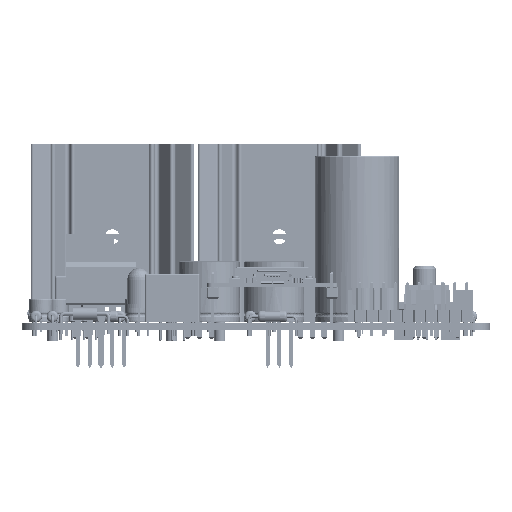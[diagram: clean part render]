
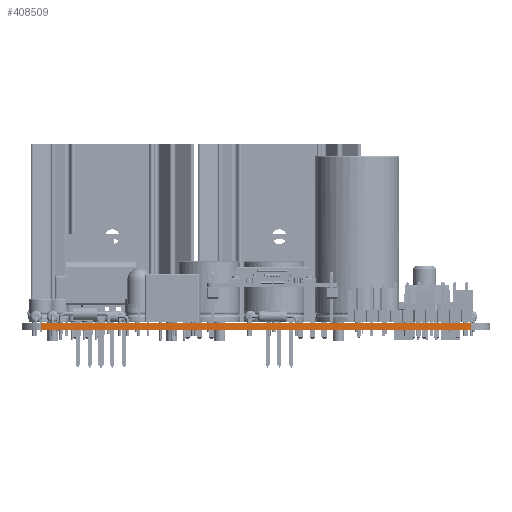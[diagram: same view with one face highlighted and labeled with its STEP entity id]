
A CAD part, left-side view. The second image highlights one B-rep face of the part: STEP entity #408509.
In plain terms, the highlighted planar face has unit normal (-1, 0, 0).
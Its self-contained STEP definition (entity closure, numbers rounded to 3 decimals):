
#381215 = PLANE('',#381216);
#381216 = AXIS2_PLACEMENT_3D('',#381217,#381218,#381219);
#381217 = CARTESIAN_POINT('',(75.,-70.,1.58));
#381218 = DIRECTION('',(-0.,-0.,-1.));
#381219 = DIRECTION('',(-1.,0.,0.));
#381269 = PLANE('',#381270);
#381270 = AXIS2_PLACEMENT_3D('',#381271,#381272,#381273);
#381271 = CARTESIAN_POINT('',(75.,-70.,0.));
#381272 = DIRECTION('',(-0.,-0.,-1.));
#381273 = DIRECTION('',(-1.,0.,0.));
#382722 = VERTEX_POINT('',#382723);
#382723 = CARTESIAN_POINT('',(20.,-116.,0.));
#382737 = PLANE('',#382738);
#382738 = AXIS2_PLACEMENT_3D('',#382739,#382740,#382741);
#382739 = CARTESIAN_POINT('',(20.019,-116.392,0.));
#382740 = DIRECTION('',(-0.999,-0.049,0.));
#382741 = DIRECTION('',(-0.049,0.999,0.));
#382749 = EDGE_CURVE('',#382722,#382750,#382752,.T.);
#382750 = VERTEX_POINT('',#382751);
#382751 = CARTESIAN_POINT('',(20.,-24.,0.));
#382752 = SURFACE_CURVE('',#382753,(#382757,#382764),.PCURVE_S1.);
#382753 = LINE('',#382754,#382755);
#382754 = CARTESIAN_POINT('',(20.,-116.,0.));
#382755 = VECTOR('',#382756,1.);
#382756 = DIRECTION('',(0.,1.,0.));
#382757 = PCURVE('',#381269,#382758);
#382758 = DEFINITIONAL_REPRESENTATION('',(#382759),#382763);
#382759 = LINE('',#382760,#382761);
#382760 = CARTESIAN_POINT('',(55.,-46.));
#382761 = VECTOR('',#382762,1.);
#382762 = DIRECTION('',(0.,1.));
#382763 = ( GEOMETRIC_REPRESENTATION_CONTEXT(2) 
PARAMETRIC_REPRESENTATION_CONTEXT() REPRESENTATION_CONTEXT('2D SPACE',''
  ) );
#382764 = PCURVE('',#382765,#382770);
#382765 = PLANE('',#382766);
#382766 = AXIS2_PLACEMENT_3D('',#382767,#382768,#382769);
#382767 = CARTESIAN_POINT('',(20.,-116.,0.));
#382768 = DIRECTION('',(-1.,0.,0.));
#382769 = DIRECTION('',(0.,1.,0.));
#382770 = DEFINITIONAL_REPRESENTATION('',(#382771),#382775);
#382771 = LINE('',#382772,#382773);
#382772 = CARTESIAN_POINT('',(0.,0.));
#382773 = VECTOR('',#382774,1.);
#382774 = DIRECTION('',(1.,0.));
#382775 = ( GEOMETRIC_REPRESENTATION_CONTEXT(2) 
PARAMETRIC_REPRESENTATION_CONTEXT() REPRESENTATION_CONTEXT('2D SPACE',''
  ) );
#382793 = PLANE('',#382794);
#382794 = AXIS2_PLACEMENT_3D('',#382795,#382796,#382797);
#382795 = CARTESIAN_POINT('',(20.,-24.,0.));
#382796 = DIRECTION('',(-0.999,0.049,0.));
#382797 = DIRECTION('',(0.049,0.999,0.));
#396649 = VERTEX_POINT('',#396650);
#396650 = CARTESIAN_POINT('',(20.,-116.,1.58));
#396671 = EDGE_CURVE('',#396649,#396672,#396674,.T.);
#396672 = VERTEX_POINT('',#396673);
#396673 = CARTESIAN_POINT('',(20.,-24.,1.58));
#396674 = SURFACE_CURVE('',#396675,(#396679,#396686),.PCURVE_S1.);
#396675 = LINE('',#396676,#396677);
#396676 = CARTESIAN_POINT('',(20.,-116.,1.58));
#396677 = VECTOR('',#396678,1.);
#396678 = DIRECTION('',(0.,1.,0.));
#396679 = PCURVE('',#381215,#396680);
#396680 = DEFINITIONAL_REPRESENTATION('',(#396681),#396685);
#396681 = LINE('',#396682,#396683);
#396682 = CARTESIAN_POINT('',(55.,-46.));
#396683 = VECTOR('',#396684,1.);
#396684 = DIRECTION('',(0.,1.));
#396685 = ( GEOMETRIC_REPRESENTATION_CONTEXT(2) 
PARAMETRIC_REPRESENTATION_CONTEXT() REPRESENTATION_CONTEXT('2D SPACE',''
  ) );
#396686 = PCURVE('',#382765,#396687);
#396687 = DEFINITIONAL_REPRESENTATION('',(#396688),#396692);
#396688 = LINE('',#396689,#396690);
#396689 = CARTESIAN_POINT('',(0.,-1.58));
#396690 = VECTOR('',#396691,1.);
#396691 = DIRECTION('',(1.,0.));
#396692 = ( GEOMETRIC_REPRESENTATION_CONTEXT(2) 
PARAMETRIC_REPRESENTATION_CONTEXT() REPRESENTATION_CONTEXT('2D SPACE',''
  ) );
#408459 = EDGE_CURVE('',#382750,#396672,#408460,.T.);
#408460 = SURFACE_CURVE('',#408461,(#408465,#408472),.PCURVE_S1.);
#408461 = LINE('',#408462,#408463);
#408462 = CARTESIAN_POINT('',(20.,-24.,0.));
#408463 = VECTOR('',#408464,1.);
#408464 = DIRECTION('',(0.,0.,1.));
#408465 = PCURVE('',#382793,#408466);
#408466 = DEFINITIONAL_REPRESENTATION('',(#408467),#408471);
#408467 = LINE('',#408468,#408469);
#408468 = CARTESIAN_POINT('',(0.,0.));
#408469 = VECTOR('',#408470,1.);
#408470 = DIRECTION('',(0.,-1.));
#408471 = ( GEOMETRIC_REPRESENTATION_CONTEXT(2) 
PARAMETRIC_REPRESENTATION_CONTEXT() REPRESENTATION_CONTEXT('2D SPACE',''
  ) );
#408472 = PCURVE('',#382765,#408473);
#408473 = DEFINITIONAL_REPRESENTATION('',(#408474),#408478);
#408474 = LINE('',#408475,#408476);
#408475 = CARTESIAN_POINT('',(92.,0.));
#408476 = VECTOR('',#408477,1.);
#408477 = DIRECTION('',(0.,-1.));
#408478 = ( GEOMETRIC_REPRESENTATION_CONTEXT(2) 
PARAMETRIC_REPRESENTATION_CONTEXT() REPRESENTATION_CONTEXT('2D SPACE',''
  ) );
#408509 = ADVANCED_FACE('',(#408510),#382765,.T.);
#408510 = FACE_BOUND('',#408511,.T.);
#408511 = EDGE_LOOP('',(#408512,#408533,#408534,#408535));
#408512 = ORIENTED_EDGE('',*,*,#408513,.T.);
#408513 = EDGE_CURVE('',#382722,#396649,#408514,.T.);
#408514 = SURFACE_CURVE('',#408515,(#408519,#408526),.PCURVE_S1.);
#408515 = LINE('',#408516,#408517);
#408516 = CARTESIAN_POINT('',(20.,-116.,0.));
#408517 = VECTOR('',#408518,1.);
#408518 = DIRECTION('',(0.,0.,1.));
#408519 = PCURVE('',#382765,#408520);
#408520 = DEFINITIONAL_REPRESENTATION('',(#408521),#408525);
#408521 = LINE('',#408522,#408523);
#408522 = CARTESIAN_POINT('',(0.,0.));
#408523 = VECTOR('',#408524,1.);
#408524 = DIRECTION('',(0.,-1.));
#408525 = ( GEOMETRIC_REPRESENTATION_CONTEXT(2) 
PARAMETRIC_REPRESENTATION_CONTEXT() REPRESENTATION_CONTEXT('2D SPACE',''
  ) );
#408526 = PCURVE('',#382737,#408527);
#408527 = DEFINITIONAL_REPRESENTATION('',(#408528),#408532);
#408528 = LINE('',#408529,#408530);
#408529 = CARTESIAN_POINT('',(0.393,0.));
#408530 = VECTOR('',#408531,1.);
#408531 = DIRECTION('',(0.,-1.));
#408532 = ( GEOMETRIC_REPRESENTATION_CONTEXT(2) 
PARAMETRIC_REPRESENTATION_CONTEXT() REPRESENTATION_CONTEXT('2D SPACE',''
  ) );
#408533 = ORIENTED_EDGE('',*,*,#396671,.T.);
#408534 = ORIENTED_EDGE('',*,*,#408459,.F.);
#408535 = ORIENTED_EDGE('',*,*,#382749,.F.);
